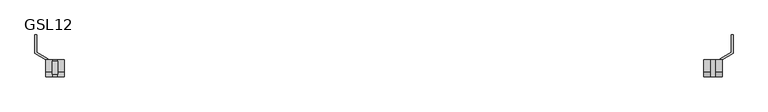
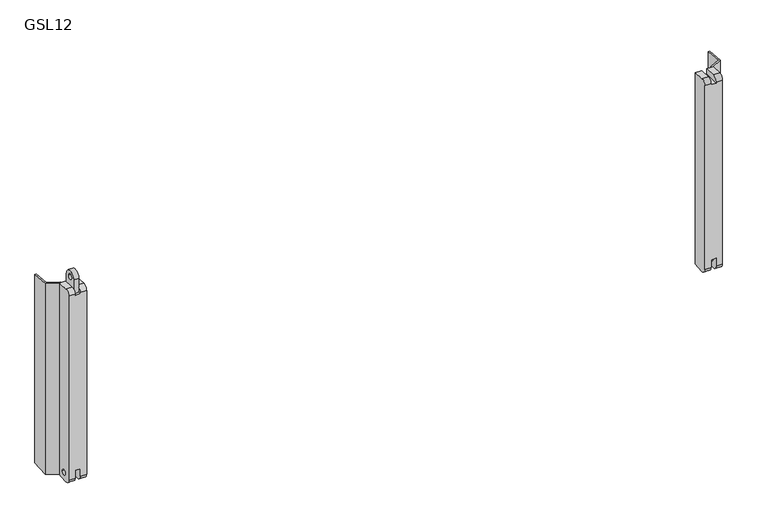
"""IFC4 building model written with IfcOpenShell, lengths in millimetres: proxy geometry, d&b SL-Series GSL : GSL12."""

from ifc_helpers import new_model, si_unit, point, frame, frame_2d, origin, place, context, project, spatial, polyline, circle_curve, trimmed, segment, composite_curve, outline, extrude, faceted_brep, source, transform, mapped, element, save
from ifc_brep_helpers import plane_surface, cylinder_surface, revolved_surface, advanced_brep


def gsl12_07355197(model_context):
    return source(origin(), model_context, "Body", "SolidModel", [
        advanced_brep(
        [(1117.5, -330.1244027, -195.0163859), (1117.5, -352.0357745, -196.4525331), (1117.5, -361.6244027, -187.4718027), (1117.5, -361.6244027, -171.6319786), (1117.5, -330.1244027, -171.6319786), (1117.5, -339.6744027, -181.5), (1117.5, -350.0744027, -181.5), (1117.5, -361.6244027, 187.4718027), (1117.5, -352.0357745, 196.4525331), (1117.5, -330.1244027, 195.0163859), (1117.5, -330.1244027, 185.1966304), (1117.5, -361.6244027, 185.1966304), (1129.5, -330.1244027, 195.0163859), (1129.5, -352.0357745, 196.4525331), (1129.5, -361.6244027, 187.4718027), (1129.5, -361.6244027, -187.4718027), (1129.5, -352.0357745, -196.4525331), (1129.5, -330.1244027, -195.0163859), (1129.5, -339.6744027, -181.5), (1129.5, -350.0744027, -181.5), (1107.5, -361.6244027, 185.1966304), (1107.5, -361.6244027, 187.4718027), (1095.5, -361.6244027, 187.4718027), (1095.5, -361.6244027, -187.4718027), (1107.5, -361.6244027, -187.4718027), (1107.5, -361.6244027, -171.6319786), (1107.5, -330.1244027, -171.6319786), (1107.5, -330.1244027, -195.0163859), (1095.5, -330.1244027, -195.0163859), (1095.5, -330.1244027, 195.0163859), (1107.5, -330.1244027, 195.0163859), (1107.5, -330.1244027, 185.1966304), (1095.5, -352.0357745, -196.4525331), (1095.5, -352.0357745, 196.4525331), (1107.5, -352.0357745, 196.4525331), (1107.5, -352.0357745, -196.4525331)],
        [
            (0, 1),
            (1, 2, circle_curve(frame((1117.5, -352.6244027, -187.4718027), z_axis=(-1.0, 0.0, 0.0), x_axis=(0.0, -1.0, 0.0)), 9.0)),
            (2, 3),
            (3, 4),
            (4, 0),
            (5, 6, circle_curve(frame((1117.5, -344.8744027, -181.5), z_axis=(1.0, 0.0, 0.0), x_axis=(0.0, -1.0, 0.0)), 5.2)),
            (6, 5, circle_curve(frame((1117.5, -344.8744027, -181.5), z_axis=(1.0, 0.0, 0.0), x_axis=(0.0, -1.0, 0.0)), 5.2)),
            (7, 8, circle_curve(frame((1117.5, -352.6244027, 187.4718027), z_axis=(-1.0, 0.0, 0.0), x_axis=(0.0, -1.0, 0.0)), 9.0)),
            (8, 9),
            (9, 10),
            (10, 11),
            (11, 7),
            (12, 13),
            (13, 14, circle_curve(frame((1129.5, -352.6244027, 187.4718027), z_axis=(1.0, 0.0, 0.0), x_axis=(0.0, -1.0, 0.0)), 9.0)),
            (14, 15),
            (15, 16, circle_curve(frame((1129.5, -352.6244027, -187.4718027), z_axis=(1.0, 0.0, 0.0), x_axis=(0.0, -1.0, 0.0)), 9.0)),
            (16, 17),
            (17, 12),
            (18, 19, circle_curve(frame((1129.5, -344.8744027, -181.5), z_axis=(-1.0, 0.0, 0.0), x_axis=(0.0, -1.0, 0.0)), 5.2)),
            (19, 18, circle_curve(frame((1129.5, -344.8744027, -181.5), z_axis=(-1.0, 0.0, 0.0), x_axis=(0.0, -1.0, 0.0)), 5.2)),
            (8, 13),
            (12, 9),
            (7, 14),
            (11, 20),
            (20, 21),
            (21, 22),
            (22, 23),
            (23, 24),
            (24, 25),
            (25, 3),
            (2, 15),
            (1, 16),
            (0, 17),
            (4, 26),
            (26, 27),
            (27, 28),
            (28, 29),
            (29, 30),
            (30, 31),
            (31, 10),
            (6, 19),
            (18, 5),
            (25, 26),
            (31, 20),
            (28, 32),
            (32, 23, circle_curve(frame((1095.5, -352.6244027, -187.4718027), z_axis=(-1.0, 0.0, 0.0), x_axis=(0.0, -1.0, 0.0)), 9.0)),
            (22, 33, circle_curve(frame((1095.5, -352.6244027, 187.4718027), z_axis=(-1.0, 0.0, 0.0), x_axis=(0.0, -1.0, 0.0)), 9.0)),
            (33, 29),
            (30, 34),
            (34, 21, circle_curve(frame((1107.5, -352.6244027, 187.4718027), z_axis=(1.0, 0.0, 0.0), x_axis=(0.0, -1.0, 0.0)), 9.0)),
            (24, 35, circle_curve(frame((1107.5, -352.6244027, -187.4718027), z_axis=(1.0, 0.0, 0.0), x_axis=(0.0, -1.0, 0.0)), 9.0)),
            (35, 27),
            (33, 34),
            (32, 35),
        ],
        [
            plane_surface(frame((1117.5, -330.1244027, 195.0163859), z_axis=(-1.0, 0.0, 0.0), x_axis=(0.0, 0.0, -1.0))),
            plane_surface(frame((1129.5, -330.1244027, 195.0163859), z_axis=(1.0, 0.0, 0.0), x_axis=(0.0, 0.0, 1.0))),
            plane_surface(frame((1117.5, -352.0357745, 196.4525331), z_axis=(0.0, 0.06540312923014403, 0.9978589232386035), x_axis=(1.0, 0.0, 0.0))),
            cylinder_surface(frame((1129.5, -352.6244027, 187.4718027), z_axis=(-1.0, 0.0, 0.0), x_axis=(0.0, -1.0, 0.0)), 9.0),
            plane_surface(frame((1117.5, -361.6244027, -187.4718027), z_axis=(0.0, -1.0, 0.0), x_axis=(1.0, 0.0, 0.0))),
            cylinder_surface(frame((1129.5, -352.6244027, -187.4718027), z_axis=(-1.0, 0.0, 0.0), x_axis=(0.0, -1.0, 0.0)), 9.0),
            plane_surface(frame((1117.5, -330.1244027, -195.0163859), z_axis=(0.0, 0.06540312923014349, -0.9978589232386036), x_axis=(1.0, 0.0, 0.0))),
            plane_surface(frame((1117.5, -330.1244027, 195.0163859), z_axis=(0.0, 1.0, 0.0), x_axis=(1.0, 0.0, 0.0))),
            revolved_surface(polyline([(1129.5, -350.0744027, -181.5), (1117.5, -350.0744027, -181.5)]), (500.0, -344.8744027, -181.5), (1.0, 0.0, 0.0)),
            plane_surface(frame((1107.5, -330.1244027, -171.6319786), z_axis=(0.0, 0.0, -1.0), x_axis=(1.0, 0.0, 0.0))),
            plane_surface(frame((1107.5, -361.6244027, 185.1966304), z_axis=(0.0, 0.0, 1.0), x_axis=(1.0, 0.0, 0.0))),
            plane_surface(frame((1095.5, -330.1244027, 195.0163859), z_axis=(-1.0, 0.0, 0.0), x_axis=(0.0, 0.0, -1.0))),
            plane_surface(frame((1107.5, -330.1244027, 195.0163859), z_axis=(1.0, 0.0, 0.0), x_axis=(0.0, 0.0, 1.0))),
            plane_surface(frame((1095.5, -352.0357745, 196.4525331), z_axis=(0.0, 0.06540312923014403, 0.9978589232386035), x_axis=(1.0, 0.0, 0.0))),
            cylinder_surface(frame((1107.5, -352.6244027, 187.4718027), z_axis=(-1.0, 0.0, 0.0), x_axis=(0.0, -1.0, 0.0)), 9.0),
            cylinder_surface(frame((1107.5, -352.6244027, -187.4718027), z_axis=(-1.0, 0.0, 0.0), x_axis=(0.0, -1.0, 0.0)), 9.0),
            plane_surface(frame((1095.5, -330.1244027, -195.0163859), z_axis=(0.0, 0.06540312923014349, -0.9978589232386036), x_axis=(1.0, 0.0, 0.0))),
        ],
        [
            (0, [[1, 2, 3, 4, 5], [6, 7]]),
            (0, [[8, 9, 10, 11, 12]]),
            (1, [[13, 14, 15, 16, 17, 18], [19, 20]]),
            (2, [[-9, 21, -13, 22]]),
            (3, [[-8, 23, -14, -21]]),
            (4, [[-15, -23, -12, 24, 25, 26, 27, 28, 29, 30, -3, 31]]),
            (5, [[-2, 32, -16, -31]]),
            (6, [[-1, 33, -17, -32]]),
            (7, [[-18, -33, -5, 34, 35, 36, 37, 38, 39, 40, -10, -22]]),
            (8, [[-7, 41, -19, 42]]),
            (8, [[-6, -42, -20, -41]]),
            (9, [[-30, 43, -34, -4]]),
            (10, [[-24, -11, -40, 44]]),
            (11, [[-37, 45, 46, -27, 47, 48]]),
            (12, [[49, 50, -25, -44, -39]]),
            (12, [[51, 52, -35, -43, -29]]),
            (13, [[-48, 53, -49, -38]]),
            (14, [[-47, -26, -50, -53]]),
            (15, [[-46, 54, -51, -28]]),
            (16, [[-45, -36, -52, -54]]),
        ],
    ),
        extrude(outline(composite_curve([segment(trimmed(circle_curve(frame_2d((-344.8744027, 213.0)), 12.0), [point((-356.8744027, 213.0))], [point((-332.8744027, 213.0))], False, "CARTESIAN"), True, "CONTINUOUS"), segment(polyline([(-332.8744027, 213.0), (-332.8744027, 185.1966304), (-356.8744027, 185.1966304), (-356.8744027, 213.0)]), True, "CONTINUOUS")], self_intersect=False), holes=[composite_curve([segment(trimmed(circle_curve(frame_2d((-344.8744027, 213.0)), 5.15), [point((-339.7244027, 213.0))], [point((-350.0244027, 213.0))], True, "CARTESIAN"), True, "CONTINUOUS"), segment(trimmed(circle_curve(frame_2d((-344.8744027, 213.0)), 5.15), [point((-350.0244027, 213.0))], [point((-339.7244027, 213.0))], True, "CARTESIAN"), True, "CONTINUOUS")], self_intersect=False)]), frame((-117.5, 0.0, 0.0), z_axis=(1.0, 0.0, 0.0), x_axis=(0.0, 1.0, 0.0)), (0.0, 0.0, 1.0), 10.0),
        advanced_brep(
        [(-117.5, -352.0357745, 196.4525331), (-117.5, -361.6244027, 187.4718027), (-117.5, -361.6244027, 185.1966304), (-117.5, -330.1244027, 185.1966304), (-117.5, -330.1244027, 195.0163859), (-117.5, -336.6244027, 195.4424184), (-117.5, -361.6244027, -187.4718027), (-117.5, -352.0357745, -196.4525331), (-117.5, -336.6244027, -195.4424184), (-117.5, -330.1244027, -195.0163859), (-117.5, -330.1244027, -171.6319786), (-117.5, -361.6244027, -171.6319786), (-117.5, -339.6744027, -181.5), (-117.5, -350.0744027, -181.5), (-129.5, -330.1244027, 195.0163859), (-129.5, -330.1244027, -195.0163859), (-129.5, -336.6244027, -195.4424184), (-129.5, -352.0357745, -196.4525331), (-129.5, -361.6244027, -187.4718027), (-129.5, -361.6244027, 187.4718027), (-129.5, -352.0357745, 196.4525331), (-129.5, -336.6244027, 195.4424184), (-129.5, -339.6744027, -181.5), (-129.5, -350.0744027, -181.5), (-107.5, -361.6244027, -171.6319786), (-107.5, -361.6244027, -187.4718027), (-95.5, -361.6244027, -187.4718027), (-95.5, -361.6244027, 187.4718027), (-107.5, -361.6244027, 187.4718027), (-107.5, -361.6244027, 185.1966304), (-107.5, -330.1244027, 185.1966304), (-107.5, -330.1244027, 195.0163859), (-95.5, -330.1244027, 195.0163859), (-95.5, -330.1244027, -195.0163859), (-107.5, -330.1244027, -195.0163859), (-107.5, -330.1244027, -171.6319786), (-95.5, -352.0357745, 196.4525331), (-95.5, -352.0357745, -196.4525331), (-107.5, -352.0357745, -196.4525331), (-107.5, -352.0357745, 196.4525331)],
        [
            (0, 1, circle_curve(frame((-117.5, -352.6244027, 187.4718027), z_axis=(1.0, 0.0, 0.0), x_axis=(0.0, -1.0, 0.0)), 9.0)),
            (1, 2),
            (2, 3),
            (3, 4),
            (4, 5),
            (5, 0),
            (6, 7, circle_curve(frame((-117.5, -352.6244027, -187.4718027), z_axis=(1.0, 0.0, 0.0), x_axis=(0.0, -1.0, 0.0)), 9.0)),
            (7, 8),
            (8, 9),
            (9, 10),
            (10, 11),
            (11, 6),
            (12, 13, circle_curve(frame((-117.5, -344.8744027, -181.5), z_axis=(-1.0, 0.0, 0.0), x_axis=(0.0, -1.0, 0.0)), 5.2)),
            (13, 12, circle_curve(frame((-117.5, -344.8744027, -181.5), z_axis=(-1.0, 0.0, 0.0), x_axis=(0.0, -1.0, 0.0)), 5.2)),
            (14, 15),
            (15, 16),
            (16, 17),
            (17, 18, circle_curve(frame((-129.5, -352.6244027, -187.4718027), z_axis=(-1.0, 0.0, 0.0), x_axis=(0.0, -1.0, 0.0)), 9.0)),
            (18, 19),
            (19, 20, circle_curve(frame((-129.5, -352.6244027, 187.4718027), z_axis=(-1.0, 0.0, 0.0), x_axis=(0.0, -1.0, 0.0)), 9.0)),
            (20, 21),
            (21, 14),
            (22, 23, circle_curve(frame((-129.5, -344.8744027, -181.5), z_axis=(1.0, 0.0, 0.0), x_axis=(0.0, -1.0, 0.0)), 5.2)),
            (23, 22, circle_curve(frame((-129.5, -344.8744027, -181.5), z_axis=(1.0, 0.0, 0.0), x_axis=(0.0, -1.0, 0.0)), 5.2)),
            (4, 14),
            (20, 0),
            (19, 1),
            (18, 6),
            (11, 24),
            (24, 25),
            (25, 26),
            (26, 27),
            (27, 28),
            (28, 29),
            (29, 2),
            (17, 7),
            (15, 9),
            (3, 30),
            (30, 31),
            (31, 32),
            (32, 33),
            (33, 34),
            (34, 35),
            (35, 10),
            (12, 22),
            (23, 13),
            (35, 24),
            (29, 30),
            (32, 36),
            (36, 27, circle_curve(frame((-95.5, -352.6244027, 187.4718027), z_axis=(1.0, 0.0, 0.0), x_axis=(0.0, -1.0, 0.0)), 9.0)),
            (26, 37, circle_curve(frame((-95.5, -352.6244027, -187.4718027), z_axis=(1.0, 0.0, 0.0), x_axis=(0.0, -1.0, 0.0)), 9.0)),
            (37, 33),
            (34, 38),
            (38, 25, circle_curve(frame((-107.5, -352.6244027, -187.4718027), z_axis=(-1.0, 0.0, 0.0), x_axis=(0.0, -1.0, 0.0)), 9.0)),
            (28, 39, circle_curve(frame((-107.5, -352.6244027, 187.4718027), z_axis=(-1.0, 0.0, 0.0), x_axis=(0.0, -1.0, 0.0)), 9.0)),
            (39, 31),
            (39, 36),
            (38, 37),
        ],
        [
            plane_surface(frame((-117.5, -352.0357745, 196.4525331), z_axis=(1.0, 0.0, 0.0), x_axis=(0.0, -0.9978589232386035, 0.06540312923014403))),
            plane_surface(frame((-129.5, -352.0357745, 196.4525331), z_axis=(-1.0, 0.0, 0.0), x_axis=(0.0, 0.9978589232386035, -0.06540312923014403))),
            plane_surface(frame((-117.5, -330.1244027, 195.0163859), z_axis=(0.0, 0.06540312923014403, 0.9978589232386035), x_axis=(-1.0, 0.0, 0.0))),
            cylinder_surface(frame((-129.5, -352.6244027, 187.4718027), z_axis=(1.0, 0.0, 0.0), x_axis=(0.0, -1.0, 0.0)), 9.0),
            plane_surface(frame((-117.5, -361.6244027, 187.4718027), z_axis=(0.0, -1.0, 0.0), x_axis=(-1.0, 0.0, 0.0))),
            cylinder_surface(frame((-129.5, -352.6244027, -187.4718027), z_axis=(1.0, 0.0, 0.0), x_axis=(0.0, -1.0, 0.0)), 9.0),
            plane_surface(frame((-117.5, -352.0357745, -196.4525331), z_axis=(0.0, 0.06540312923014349, -0.9978589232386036), x_axis=(-1.0, 0.0, 0.0))),
            plane_surface(frame((-117.5, -330.1244027, -195.0163859), z_axis=(0.0, 1.0, 0.0), x_axis=(-1.0, 0.0, 0.0))),
            revolved_surface(polyline([(-129.5, -350.0744027, -181.5), (-117.5, -350.0744027, -181.5)]), (500.0, -344.8744027, -181.5), (-1.0, 0.0, 0.0)),
            plane_surface(frame((-107.5, -361.6244027, -171.6319786), z_axis=(0.0, 0.0, -1.0), x_axis=(-1.0, 0.0, 0.0))),
            plane_surface(frame((-107.5, -330.1244027, 185.1966304), z_axis=(0.0, 0.0, 1.0), x_axis=(-1.0, 0.0, 0.0))),
            plane_surface(frame((-95.5, -352.0357745, 196.4525331), z_axis=(1.0, 0.0, 0.0), x_axis=(0.0, -0.9978589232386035, 0.06540312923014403))),
            plane_surface(frame((-107.5, -352.0357745, 196.4525331), z_axis=(-1.0, 0.0, 0.0), x_axis=(0.0, 0.9978589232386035, -0.06540312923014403))),
            plane_surface(frame((-95.5, -330.1244027, 195.0163859), z_axis=(0.0, 0.06540312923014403, 0.9978589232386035), x_axis=(-1.0, 0.0, 0.0))),
            cylinder_surface(frame((-107.5, -352.6244027, 187.4718027), z_axis=(1.0, 0.0, 0.0), x_axis=(0.0, -1.0, 0.0)), 9.0),
            cylinder_surface(frame((-107.5, -352.6244027, -187.4718027), z_axis=(1.0, 0.0, 0.0), x_axis=(0.0, -1.0, 0.0)), 9.0),
            plane_surface(frame((-95.5, -352.0357745, -196.4525331), z_axis=(0.0, 0.06540312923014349, -0.9978589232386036), x_axis=(-1.0, 0.0, 0.0))),
        ],
        [
            (0, [[1, 2, 3, 4, 5, 6]]),
            (0, [[7, 8, 9, 10, 11, 12], [13, 14]]),
            (1, [[15, 16, 17, 18, 19, 20, 21, 22], [23, 24]]),
            (2, [[25, -22, -21, 26, -6, -5]]),
            (3, [[-1, -26, -20, 27]]),
            (4, [[-19, 28, -12, 29, 30, 31, 32, 33, 34, 35, -2, -27]]),
            (5, [[-7, -28, -18, 36]]),
            (6, [[-36, -17, -16, 37, -9, -8]]),
            (7, [[-15, -25, -4, 38, 39, 40, 41, 42, 43, 44, -10, -37]]),
            (8, [[-13, 45, -24, 46]]),
            (8, [[-14, -46, -23, -45]]),
            (9, [[-29, -11, -44, 47]]),
            (10, [[-35, 48, -38, -3]]),
            (11, [[49, 50, -32, 51, 52, -41]]),
            (12, [[53, 54, -30, -47, -43]]),
            (12, [[55, 56, -39, -48, -34]]),
            (13, [[-49, -40, -56, 57]]),
            (14, [[-50, -57, -55, -33]]),
            (15, [[-51, -31, -54, 58]]),
            (16, [[-52, -58, -53, -42]]),
        ],
    ),
        faceted_brep([(-147.0, -283.8744027, 191.9850007), (-147.0, -283.8744027, -191.9850007), (-150.0, -283.8744027, -191.9850007), (-150.0, -283.8744027, 191.9850007), (-150.0, -318.2887222, -194.2406344), (-150.0, -318.2887222, 194.2406344), (-129.5, -330.1244027, -195.0163859), (-129.5, -330.1244027, 195.0163859), (-126.5, -330.1244027, -195.0163859), (-126.5, -330.1244027, 195.0163859), (-126.5, -328.3923519, -194.9028613), (-126.5, -328.3923519, 194.9028613), (-147.0, -316.5566714, -194.1271098), (-147.0, -316.5566714, 194.1271098)], [[[0, 1, 2, 3]], [[3, 2, 4, 5]], [[5, 4, 6, 7]], [[7, 6, 8, 9]], [[9, 8, 10, 11]], [[11, 10, 12, 13]], [[1, 0, 13, 12]], [[0, 3, 5, 7, 9, 11, 13]], [[2, 1, 12, 10, 8, 6, 4]]]),
        faceted_brep([(1147.0, -283.8744027, 191.9850007), (1147.0, -283.8744027, -191.9850007), (1147.0, -316.5566714, -194.1271098), (1147.0, -316.5566714, 194.1271098), (1126.5, -328.3923519, -194.9028613), (1126.5, -328.3923519, 194.9028613), (1126.5, -330.1244027, -195.0163859), (1126.5, -330.1244027, 195.0163859), (1129.5, -330.1244027, -195.0163859), (1129.5, -330.1244027, 195.0163859), (1150.0, -318.2887222, -194.2406344), (1150.0, -318.2887222, 194.2406344), (1150.0, -283.8744027, -191.9850007), (1150.0, -283.8744027, 191.9850007)], [[[0, 1, 2, 3]], [[3, 2, 4, 5]], [[5, 4, 6, 7]], [[7, 6, 8, 9]], [[9, 8, 10, 11]], [[11, 10, 12, 13]], [[1, 0, 13, 12]], [[0, 3, 5, 7, 9, 11, 13]], [[2, 1, 12, 10, 8, 6, 4]]]),
    ])


if __name__ == "__main__":
    model = new_model("IFC4")
    model_context = context("Model", 3, world=origin())
    ifc_project = project(units=[si_unit("LENGTHUNIT", "METRE", prefix="MILLI")], contexts=[model_context])
    site = spatial("IfcSite", under=ifc_project)
    building = spatial("IfcBuilding", under=site)
    placement = place(None, origin())
    gsl12_shape = gsl12_07355197(model_context)
    element("IfcBuildingElementProxy", 1, Name="d&b SL-Series GSL : GSL12", ObjectType="d&b SL-Series GSL : GSL12", at=placement, inside=building, context=model_context, shape_type="MappedRepresentation", body=[
        mapped(gsl12_shape, transform((0.0, 0.0, 0.0), x_axis=(1.0, 0.0, 0.0), y_axis=(0.0, 1.0, 0.0), z_axis=(0.0, 0.0, 1.0))),
    ])
    save(model, "model.ifc")
